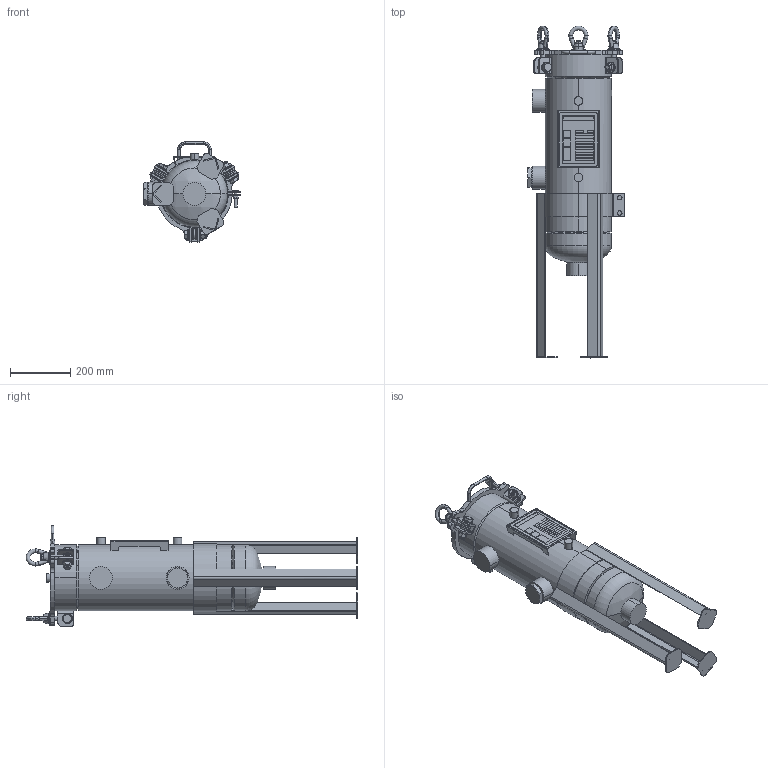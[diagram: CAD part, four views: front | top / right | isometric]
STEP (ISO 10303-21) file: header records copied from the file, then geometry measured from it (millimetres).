
FILE_DESCRIPTION (( 'STEP AP203' ), '1' );
FILE_NAME ('002002-20563.step', '2025-12-09T14:44:21', ( '' ), ( '' ), 'SwSTEP 2.0', 'SolidWorks 2023', '' );
FILE_SCHEMA (( 'CONFIG_CONTROL_DESIGN' ));
Length unit declared in the file: inch
Products named in the file (1): 002002-20563
Bounding box: 320.83 x 1098.78 x 332.83 mm (x, y, z)
Volume: 27757697.1 mm3; surface area: 1352862.8 mm2
Topology: 13 solids, 13 shells, 794 faces, 1887 edges, 1166 vertices
Faces by surface type: plane 312, cylinder 227, cone 149, torus 53, bspline 51, sphere 2
Entity records: 26520 total; most frequent: CARTESIAN_POINT 8425, DIRECTION 3789, ORIENTED_EDGE 3750, EDGE_CURVE 1875, AXIS2_PLACEMENT_3D 1510, VERTEX_POINT 1166, EDGE_LOOP 871, ADVANCED_FACE 794
